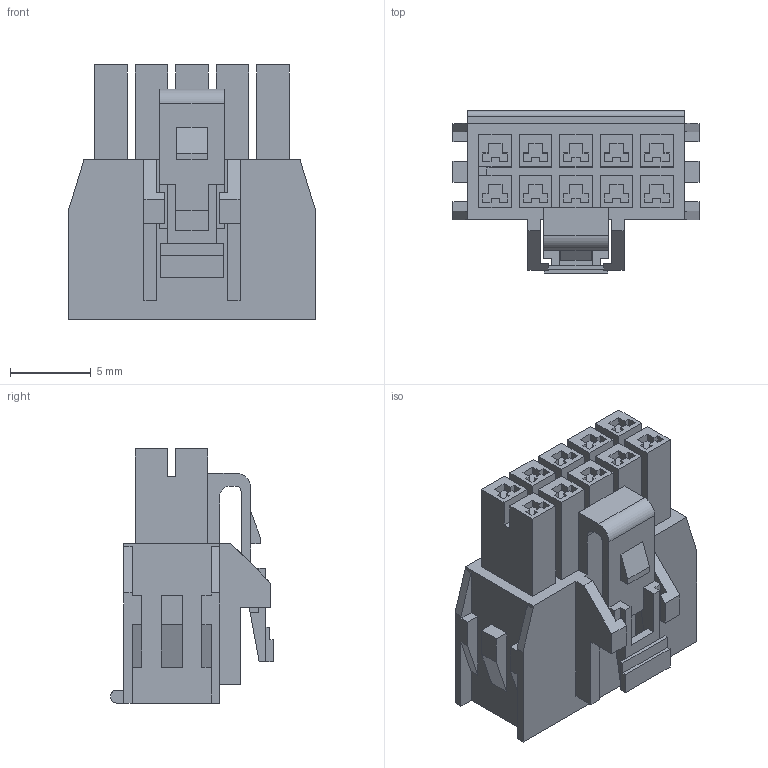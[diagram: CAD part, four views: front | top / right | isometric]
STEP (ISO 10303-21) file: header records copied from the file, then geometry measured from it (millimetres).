
FILE_DESCRIPTION(/* description */ (''),/* implementation_level */ '2;1');
FILE_NAME(/* name */ '1053082210wbm000_02_214.stp',/* time_stamp */ '2023-01-25T18:29:57+08:00',/* author */ (''),/* organization */ (''),/* preprocessor_version */ 'ST-DEVELOPER v16.7',/* originating_system */ 'SIEMENS PLM Software NX 1919',/* authorisation */ '');
FILE_SCHEMA (('AUTOMOTIVE_DESIGN { 1 0 10303 214 3 1 1 1 }'));
Length unit declared in the file: millimetre
Products named in the file (1): 1053082210wbm000_02
Bounding box: 15.2 x 10.04 x 15.7 mm (x, y, z)
Volume: 1101.9 mm3; surface area: 1420.4 mm2
Topology: 1 solids, 1 shells, 379 faces, 1039 edges, 692 vertices
Faces by surface type: plane 374, cylinder 5
Entity records: 11795 total; most frequent: CARTESIAN_POINT 2111, ORIENTED_EDGE 2078, DIRECTION 1809, EDGE_CURVE 1039, LINE 1029, VECTOR 1029, VERTEX_POINT 692, EDGE_LOOP 411
